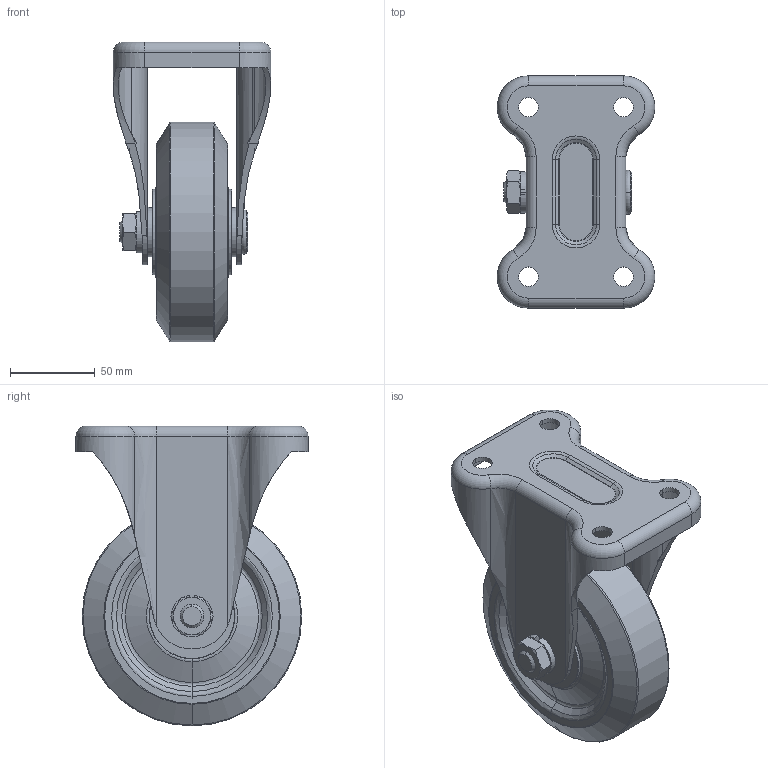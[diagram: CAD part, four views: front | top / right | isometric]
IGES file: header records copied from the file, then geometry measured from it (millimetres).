
Global section: file name: No Iges File Name specified; native system: AutoDesk Inventor R11.0; preprocessor: AutoDesk Inventor Iges Exporter R11.0; author: No Author specified; organization: No Organization specified; date: 20130719.172311; units: millimetre
Bounding box: 92.98 x 137 x 176.75 mm (x, y, z)
Volume: 112559.7 mm3; surface area: 182703.3 mm2
Topology: 1 solids, 1 shells, 322 faces, 1041 edges, 886 vertices
Faces by surface type: revolution 192, plane 66, cylinder 26, cone 22, torus 16
